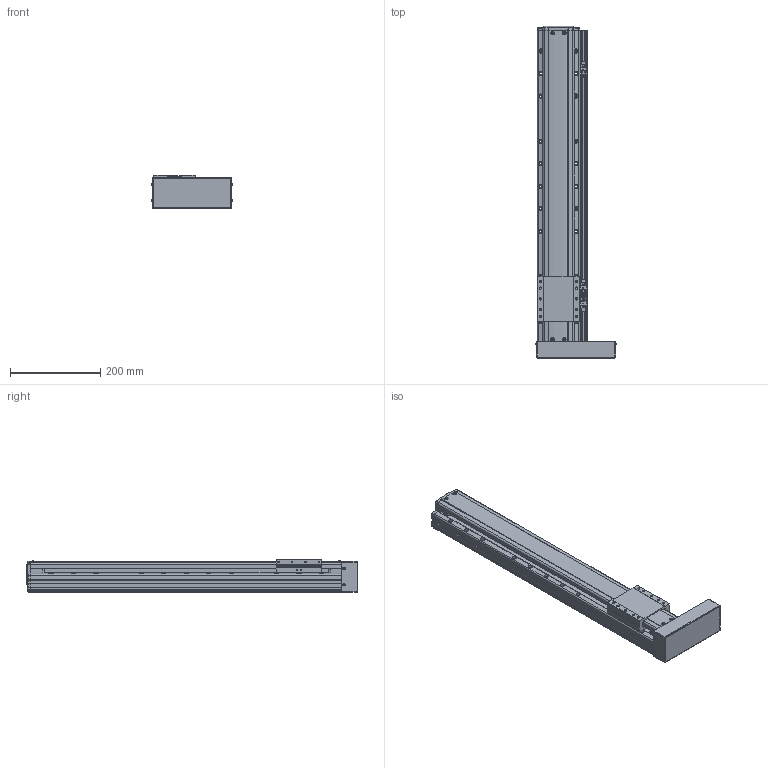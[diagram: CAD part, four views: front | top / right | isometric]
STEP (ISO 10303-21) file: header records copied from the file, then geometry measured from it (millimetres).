
FILE_DESCRIPTION(('STEP AP214'),'1');
FILE_NAME('Z:/Web/3D/PSA95/STP/PSA95-500 (3D)/PSA95ㅁㅁ-500PR+3SR.stp','2014-07-03T00:30:37',(' '),(' '),'Spatial InterOp 3D',' ',' ');
FILE_SCHEMA(('automotive_design'));
Length unit declared in the file: millimetre
Products named in the file (41): BASE; RRCV; 스크루 : Round - M4.0 x 10.0; 너트 : Square - M10.0 x 220.7419; RR1500; FRCV-090; 스크루 : Round - M4.0 x 6.0; SLBL-PA90; MOTOR PLATE COVER; 스크루 : Round - M3.0 x 6.0; EE-SX674; SBK-SX674-352; M3.0 x 6.0; SRL-16x17-380L; SGD-PA95; 스크루 : Round - M3.0 x 8.0
Bounding box: 179.13 x 736.5 x 74 mm (x, y, z)
Volume: 4283834.3 mm3; surface area: 524346.4 mm2
Topology: 41 solids, 41 shells, 2420 faces, 6454 edges, 4142 vertices
Faces by surface type: plane 1408, cylinder 691, cone 221, sphere 62, bspline 24, torus 14
Entity records: 97116 total; most frequent: CARTESIAN_POINT 16116, DIRECTION 12840, ORIENTED_EDGE 12636, EDGE_CURVE 6318, LINE 4320, VECTOR 4320, AXIS2_PLACEMENT_3D 4260, VERTEX_POINT 4142
